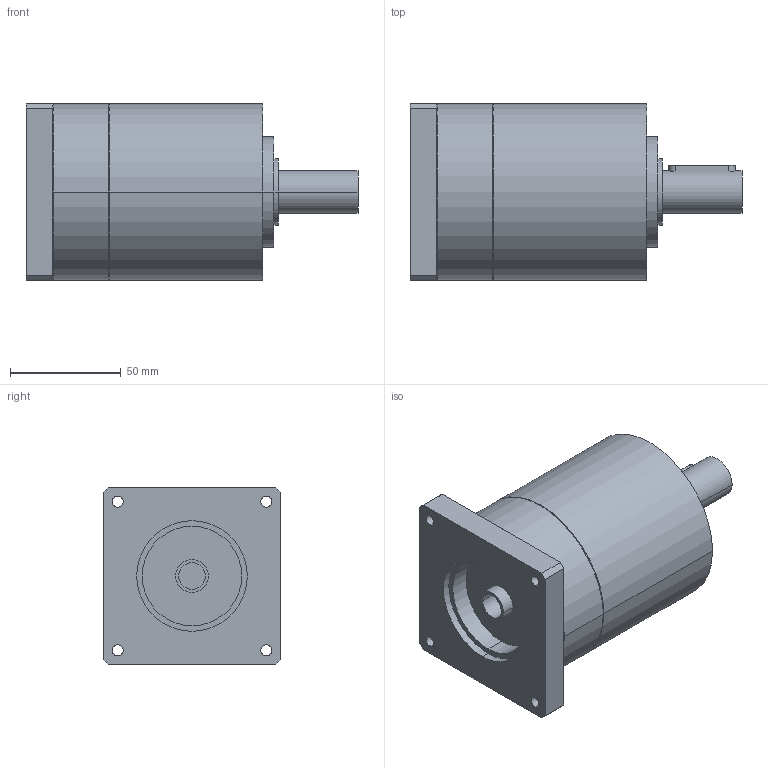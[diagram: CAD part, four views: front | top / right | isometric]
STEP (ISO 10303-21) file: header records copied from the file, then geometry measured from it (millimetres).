
FILE_DESCRIPTION(('CoCreate Modeling STEP Export'),'2;1');
FILE_NAME('GPR100_ig-3-4-5-6_19_B14_12_P21.stp','2014-08-26T10:06:11',(''),(''),'CoCreate Modeling STEP processor for AP214 (Solid Model)','CoCreate Modeling 16.00C 25-Feb-2009 (C) Parametric Technology GmbH','');
FILE_SCHEMA(('AUTOMOTIVE_DESIGN { 1 0 10303 214 1 1 1 1 }'));
Length unit declared in the file: millimetre
Products named in the file (2): GPR100_ig-3-4-5-6_19_B14_12_P21
Assembly tree (1 placements, depth 2):
  GPR100_ig-3-4-5-6_19_B14_12_P21
    GPR100_ig-3-4-5-6_19_B14_12_P21
Bounding box: 150 x 80 x 80 mm (x, y, z)
Volume: 551180.9 mm3; surface area: 48956.6 mm2
Topology: 1 solids, 1 shells, 70 faces, 184 edges, 128 vertices
Faces by surface type: cylinder 42, plane 22, cone 6
Entity records: 1919 total; most frequent: ORIENTED_EDGE 364, CARTESIAN_POINT 356, DIRECTION 262, EDGE_CURVE 182, VERTEX_POINT 128, AXIS2_PLACEMENT_3D 98, EDGE_LOOP 92, FACE_OUTER_BOUND 70
